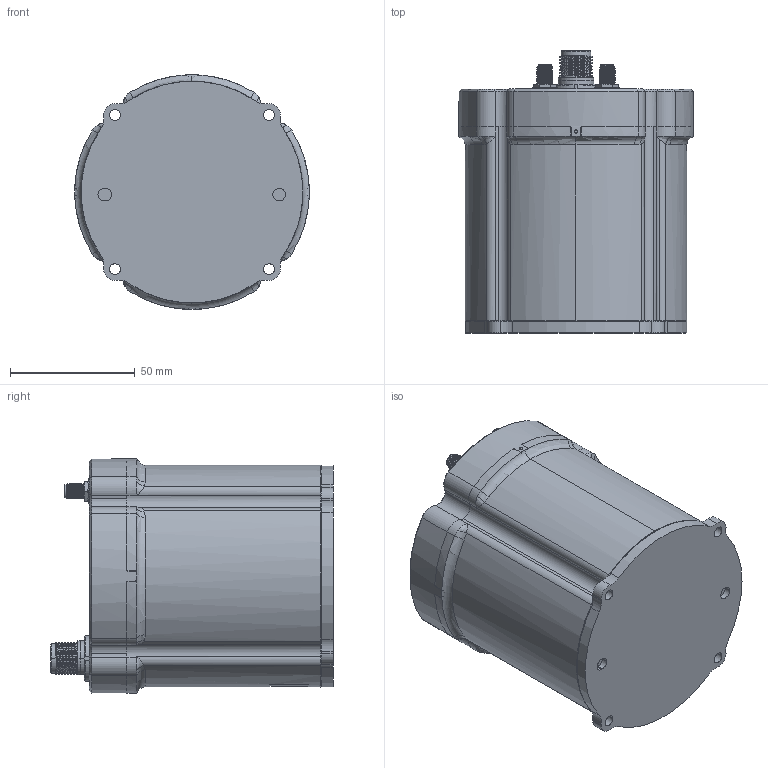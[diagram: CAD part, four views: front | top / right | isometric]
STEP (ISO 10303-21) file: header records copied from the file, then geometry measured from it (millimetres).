
FILE_DESCRIPTION (( 'STEP AP214' ), '1' );
FILE_NAME ('Spatial FOG Dual - Defeatured for customers.STEP', '2015-07-22T00:34:05', ( '' ), ( '' ), 'SwSTEP 2.0', 'SolidWorks 2015', '' );
FILE_SCHEMA (( 'AUTOMOTIVE_DESIGN' ));
Length unit declared in the file: millimetre
Products named in the file (1): Spatial FOG Dual - Defeatured for customers
Bounding box: 94 x 113.1 x 94.05 mm (x, y, z)
Surface area: 48031.6 mm2 (no closed solid volume)
Topology: 0 solids, 13 shells, 1833 faces, 4844 edges, 3177 vertices
Faces by surface type: plane 892, bspline 420, cylinder 343, cone 147, torus 31
Entity records: 79483 total; most frequent: CARTESIAN_POINT 32768, ORIENTED_EDGE 9634, DIRECTION 7099, EDGE_CURVE 4836, VERTEX_POINT 3177, LINE 2839, VECTOR 2839, AXIS2_PLACEMENT_3D 2130
